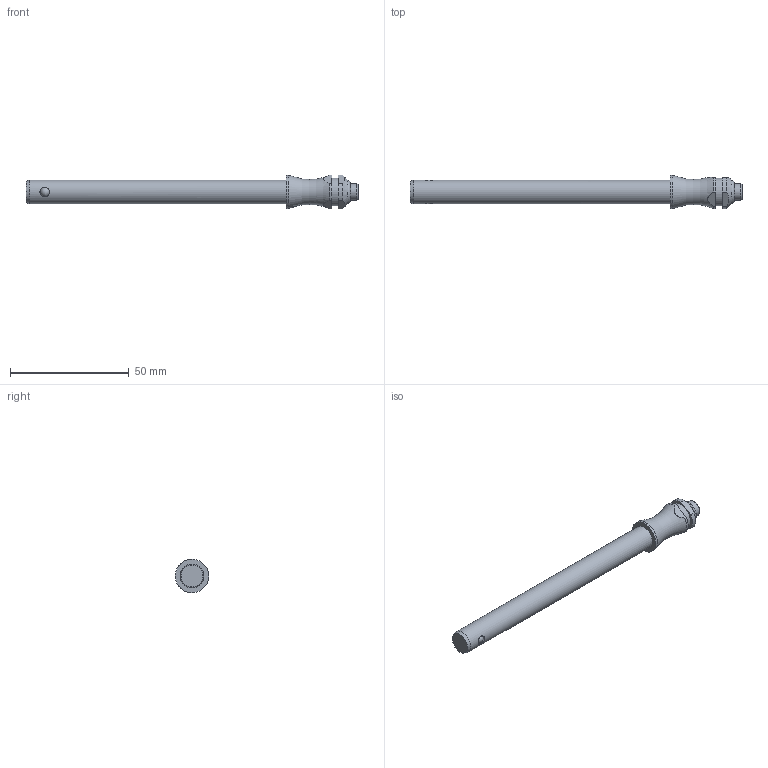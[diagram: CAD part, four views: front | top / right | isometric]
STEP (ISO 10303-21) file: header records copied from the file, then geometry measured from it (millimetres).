
FILE_DESCRIPTION( ( 'STEP AP203' ), '1' );
FILE_NAME( 'C:/Temp/Ganter_Step_05_03_2020/data/3_1/gn113_3/Stainless Steel-Ball lock pin GN 113.3-10-100 (activated).stp', '2020-03-12T08:18:38', ( 'License CC BY-ND 4.0' ), ( 'CADENAS' ), ' ', 'PARTsolutions', ' ' );
FILE_SCHEMA( ( 'CONFIG_CONTROL_DESIGN' ) );
Length unit declared in the file: millimetre
Products named in the file (1): _Stainless Steel-Ball lock pin GN 113.3-10-100 (activated)
Bounding box: 139.75 x 14 x 14 mm (x, y, z)
Volume: 11685.9 mm3; surface area: 4894.2 mm2
Topology: 1 solids, 1 shells, 30 faces, 72 edges, 45 vertices
Faces by surface type: cylinder 12, plane 11, cone 3, torus 2, sphere 2
Full cylindrical faces by diameter (mm): 4 x2, 7 x1, 10 x1, 11.6 x1, 14 x1
Entity records: 988 total; most frequent: CARTESIAN_POINT 341, DIRECTION 130, ORIENTED_EDGE 102, AXIS2_PLACEMENT_3D 56, EDGE_CURVE 51, EDGE_LOOP 46, VERTEX_POINT 39, FACE_OUTER_BOUND 38
